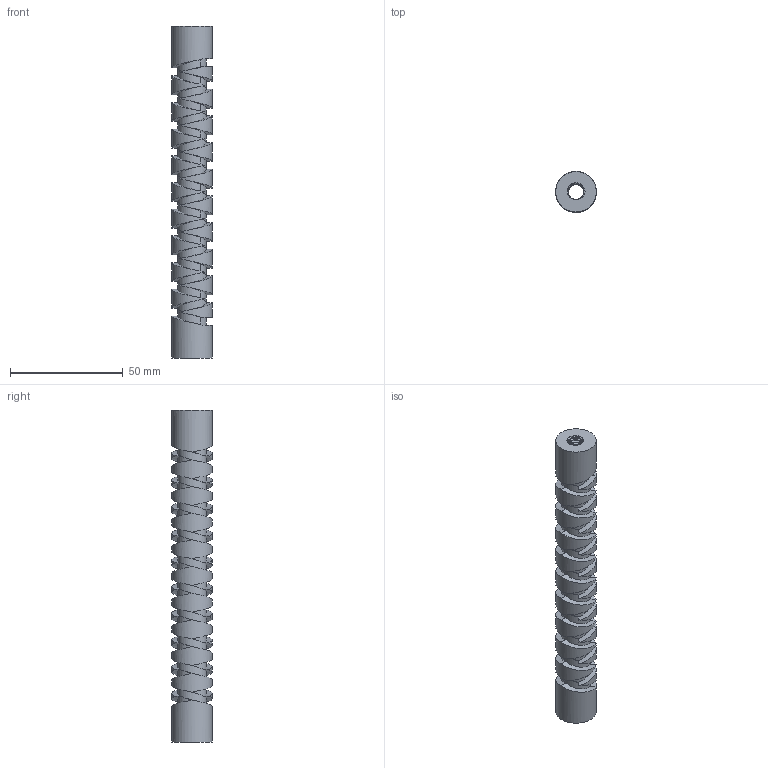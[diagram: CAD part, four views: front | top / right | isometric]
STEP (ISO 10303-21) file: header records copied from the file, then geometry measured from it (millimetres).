
FILE_DESCRIPTION(('FreeCAD Model'),'2;1');
FILE_NAME('Open CASCADE Shape Model','2024-08-18T13:00:00',(''),(''), 'Open CASCADE STEP processor 7.6','FreeCAD','Unknown');
FILE_SCHEMA(('AUTOMOTIVE_DESIGN { 1 0 10303 214 1 1 1 1 }'));
Products named in the file (1): Spindel_2.6_tief_10Gang_v2
Bounding box: 18 x 18 x 147.5 mm (x, y, z)
Volume: 23719.2 mm3; surface area: 16818.9 mm2
Topology: 1 solids, 1 shells, 638 faces, 1370 edges, 734 vertices
Faces by surface type: bspline 475, cylinder 153, plane 10
Full cylindrical faces by diameter (mm): 6.828 x117, 18 x2
Entity records: 225798 total; most frequent: CARTESIAN_POINT 203037, ORIENTED_EDGE 2740, PCURVE 2740, DEFINITIONAL_REPRESENTATION 2740, DIRECTION 2283, B_SPLINE_CURVE_WITH_KNOTS 2164, LINE 1910, VECTOR 1910
